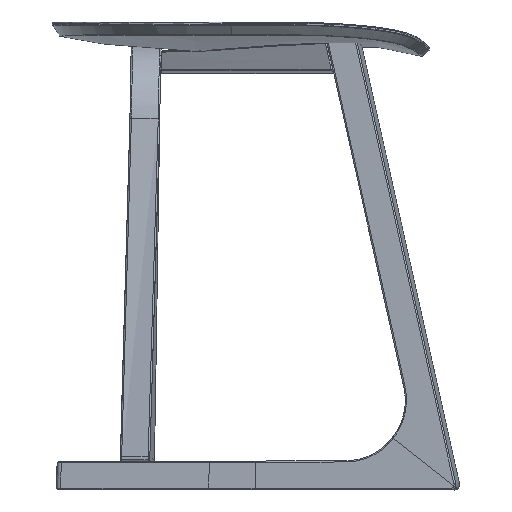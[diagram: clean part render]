
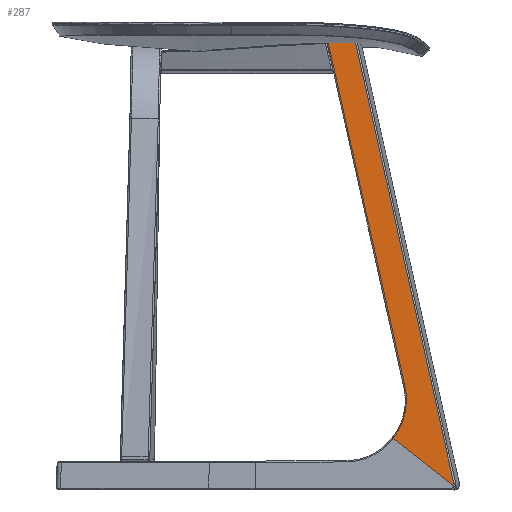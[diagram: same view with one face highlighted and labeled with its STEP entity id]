
A CAD part, left-side view. The second image highlights one B-rep face of the part: STEP entity #287.
In plain terms, the highlighted planar face has unit normal (0.979, -0.167, -0.121).
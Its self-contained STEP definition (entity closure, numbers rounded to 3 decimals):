
#46=PLANE('',#3558);
#287=ADVANCED_FACE('',(#548),#46,.T.);
#548=FACE_OUTER_BOUND('',#809,.T.);
#809=EDGE_LOOP('',(#1679,#1680,#1681,#1682,#1683,#1684));
#1679=ORIENTED_EDGE('',*,*,#2334,.T.);
#1680=ORIENTED_EDGE('',*,*,#2306,.T.);
#1681=ORIENTED_EDGE('',*,*,#2309,.F.);
#1682=ORIENTED_EDGE('',*,*,#2300,.F.);
#1683=ORIENTED_EDGE('',*,*,#2335,.F.);
#1684=ORIENTED_EDGE('',*,*,#2231,.F.);
#2231=EDGE_CURVE('',#3176,#3175,#2899,.T.);
#2300=EDGE_CURVE('',#3211,#3221,#2686,.T.);
#2306=EDGE_CURVE('',#3212,#3222,#2692,.T.);
#2309=EDGE_CURVE('',#3221,#3222,#2935,.T.);
#2334=EDGE_CURVE('',#3176,#3212,#2946,.T.);
#2335=EDGE_CURVE('',#3175,#3211,#2947,.T.);
#2686=(
BOUNDED_CURVE()
B_SPLINE_CURVE(3,(#14022,#14023,#14024,#14025,#14026,#14027,#14028),
 .UNSPECIFIED.,.F.,.F.)
B_SPLINE_CURVE_WITH_KNOTS((4,3,4),(0.,27.814,
55.177),.UNSPECIFIED.)
CURVE()
GEOMETRIC_REPRESENTATION_ITEM()
RATIONAL_B_SPLINE_CURVE((1.,1.,1.,1.,1.,
1.,1.))
REPRESENTATION_ITEM('')
);
#2692=(
BOUNDED_CURVE()
B_SPLINE_CURVE(3,(#14085,#14086,#14087,#14088,#14089,#14090,#14091),
 .UNSPECIFIED.,.F.,.F.)
B_SPLINE_CURVE_WITH_KNOTS((4,3,4),(-0.188,1.487,1.623),
 .UNSPECIFIED.)
CURVE()
GEOMETRIC_REPRESENTATION_ITEM()
RATIONAL_B_SPLINE_CURVE((1.,1.,1.,1.,1.,1.,1.))
REPRESENTATION_ITEM('')
);
#2899=B_SPLINE_CURVE_WITH_KNOTS('',3,(#13708,#13709,#13710,#13711,#13712,
#13713,#13714),.UNSPECIFIED.,.F.,.F.,(4,3,4),(0.52,24.264,
28.392),.UNSPECIFIED.);
#2935=B_SPLINE_CURVE_WITH_KNOTS('',1,(#14098,#14099),.UNSPECIFIED.,.F.,
 .F.,(2,2),(-82.197,-3.107),.UNSPECIFIED.);
#2946=B_SPLINE_CURVE_WITH_KNOTS('',1,(#14282,#14283),.UNSPECIFIED.,.F.,
 .F.,(2,2),(289.592,749.75),.UNSPECIFIED.);
#2947=B_SPLINE_CURVE_WITH_KNOTS('',1,(#14284,#14285),.UNSPECIFIED.,.F.,
 .F.,(2,2),(290.352,649.528),.UNSPECIFIED.);
#3175=VERTEX_POINT('',#13622);
#3176=VERTEX_POINT('',#13623);
#3211=VERTEX_POINT('',#13658);
#3212=VERTEX_POINT('',#13659);
#3221=VERTEX_POINT('',#13668);
#3222=VERTEX_POINT('',#13669);
#3558=AXIS2_PLACEMENT_3D('',#13615,#3597,$);
#3597=DIRECTION('',(0.979,-0.167,-0.121));
#13615=CARTESIAN_POINT('',(908.818,-27522.502,495.885));
#13622=CARTESIAN_POINT('',(867.471,-27557.545,209.216));
#13623=CARTESIAN_POINT('',(862.746,-27585.006,208.955));
#13658=CARTESIAN_POINT('',(811.555,-27634.815,-137.065));
#13659=CARTESIAN_POINT('',(791.109,-27684.001,-234.681));
#13668=CARTESIAN_POINT('',(807.201,-27622.899,-188.882));
#13669=CARTESIAN_POINT('',(790.9,-27683.939,-236.459));
#13708=CARTESIAN_POINT('',(862.746,-27585.006,208.955));
#13709=CARTESIAN_POINT('',(864.108,-27577.208,209.191));
#13710=CARTESIAN_POINT('',(865.449,-27569.421,209.28));
#13711=CARTESIAN_POINT('',(866.78,-27561.613,209.245));
#13712=CARTESIAN_POINT('',(867.011,-27560.257,209.239));
#13713=CARTESIAN_POINT('',(867.241,-27558.901,209.229));
#13714=CARTESIAN_POINT('',(867.471,-27557.545,209.216));
#14022=CARTESIAN_POINT('',(811.555,-27634.815,-137.065));
#14023=CARTESIAN_POINT('',(810.111,-27636.818,-146.001));
#14024=CARTESIAN_POINT('',(808.957,-27636.756,-155.442));
#14025=CARTESIAN_POINT('',(808.207,-27634.651,-164.439));
#14026=CARTESIAN_POINT('',(807.469,-27632.58,-173.29));
#14027=CARTESIAN_POINT('',(807.123,-27628.531,-181.711));
#14028=CARTESIAN_POINT('',(807.201,-27622.899,-188.882));
#14085=CARTESIAN_POINT('',(791.109,-27684.001,-234.681));
#14086=CARTESIAN_POINT('',(791.022,-27684.122,-235.219));
#14087=CARTESIAN_POINT('',(790.953,-27684.112,-235.789));
#14088=CARTESIAN_POINT('',(790.91,-27683.975,-236.329));
#14089=CARTESIAN_POINT('',(790.907,-27683.964,-236.372));
#14090=CARTESIAN_POINT('',(790.903,-27683.952,-236.416));
#14091=CARTESIAN_POINT('',(790.9,-27683.939,-236.459));
#14098=CARTESIAN_POINT('',(807.201,-27622.899,-188.882));
#14099=CARTESIAN_POINT('',(790.9,-27683.939,-236.459));
#14282=CARTESIAN_POINT('',(862.746,-27585.006,208.955));
#14283=CARTESIAN_POINT('',(791.109,-27684.001,-234.681));
#14284=CARTESIAN_POINT('',(867.471,-27557.545,209.216));
#14285=CARTESIAN_POINT('',(811.555,-27634.815,-137.065));
